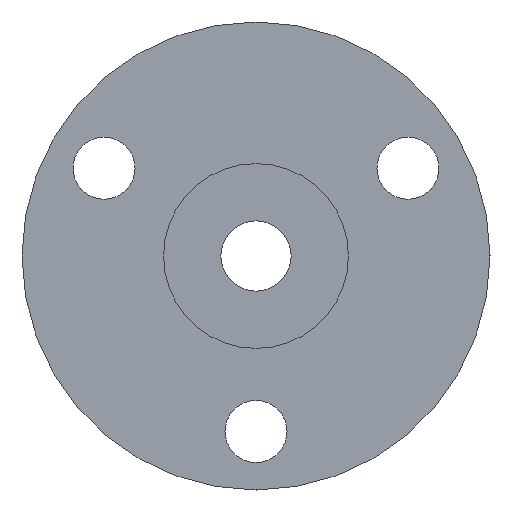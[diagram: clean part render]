
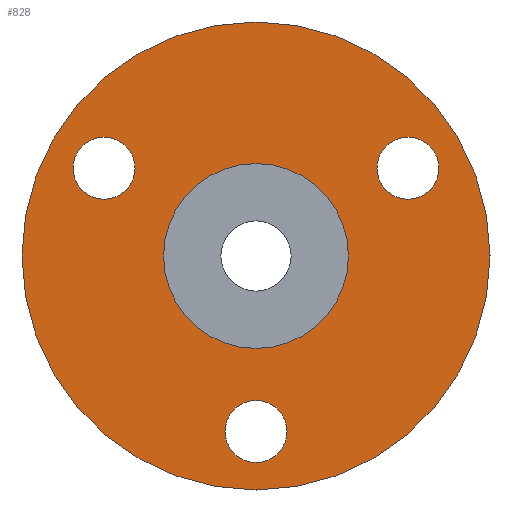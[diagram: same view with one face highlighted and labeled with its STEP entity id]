
A CAD part, front view. The second image highlights one B-rep face of the part: STEP entity #828.
In plain terms, the highlighted planar face has unit normal (0, -1, 0).
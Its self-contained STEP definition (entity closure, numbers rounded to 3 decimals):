
#11 = CIRCLE ( 'NONE', #228, 2.65 ) ;
#32 = ORIENTED_EDGE ( 'NONE', *, *, #761, .F. ) ;
#47 = VERTEX_POINT ( 'NONE', #421 ) ;
#53 = CIRCLE ( 'NONE', #287, 7.9 ) ;
#70 = DIRECTION ( 'NONE',  ( 0., -1., 0. ) ) ;
#72 = CARTESIAN_POINT ( 'NONE',  ( 0., -17.6, -20. ) ) ;
#76 = CARTESIAN_POINT ( 'NONE',  ( 0., -17.6, 20. ) ) ;
#80 = EDGE_LOOP ( 'NONE', ( #694, #931 ) ) ;
#94 = EDGE_CURVE ( 'NONE', #186, #534, #462, .T. ) ;
#96 = DIRECTION ( 'NONE',  ( 0., -1., 0. ) ) ;
#97 = ORIENTED_EDGE ( 'NONE', *, *, #614, .F. ) ;
#111 = CARTESIAN_POINT ( 'NONE',  ( 12.99, -17.6, 7.5 ) ) ;
#133 = CARTESIAN_POINT ( 'NONE',  ( 0., -17.6, 20. ) ) ;
#136 = ORIENTED_EDGE ( 'NONE', *, *, #181, .T. ) ;
#137 = ORIENTED_EDGE ( 'NONE', *, *, #311, .F. ) ;
#139 = CARTESIAN_POINT ( 'NONE',  ( -12.99, -17.6, 4.85 ) ) ;
#154 = EDGE_CURVE ( 'NONE', #691, #713, #53, .T. ) ;
#160 = FACE_BOUND ( 'NONE', #208, .T. ) ;
#166 = DIRECTION ( 'NONE',  ( 0., 0., 1. ) ) ;
#181 = EDGE_CURVE ( 'NONE', #713, #691, #720, .T. ) ;
#184 = DIRECTION ( 'NONE',  ( 0., 0., 1. ) ) ;
#186 = VERTEX_POINT ( 'NONE', #883 ) ;
#208 = EDGE_LOOP ( 'NONE', ( #1066, #32 ) ) ;
#228 = AXIS2_PLACEMENT_3D ( 'NONE', #317, #815, #746 ) ;
#242 = CARTESIAN_POINT ( 'NONE',  ( 0., -17.6, -15. ) ) ;
#244 = DIRECTION ( 'NONE',  ( 0., 0., -1. ) ) ;
#253 = CARTESIAN_POINT ( 'NONE',  ( 0., -17.6, 0. ) ) ;
#264 = CARTESIAN_POINT ( 'NONE',  ( 0., -17.6, 0. ) ) ;
#265 = ORIENTED_EDGE ( 'NONE', *, *, #583, .F. ) ;
#275 = EDGE_CURVE ( 'NONE', #787, #969, #959, .T. ) ;
#280 = DIRECTION ( 'NONE',  ( 0., 0., -1. ) ) ;
#287 = AXIS2_PLACEMENT_3D ( 'NONE', #264, #1030, #888 ) ;
#311 = EDGE_CURVE ( 'NONE', #687, #370, #11, .T. ) ;
#317 = CARTESIAN_POINT ( 'NONE',  ( -12.99, -17.6, 7.5 ) ) ;
#344 = CIRCLE ( 'NONE', #407, 2.65 ) ;
#370 = VERTEX_POINT ( 'NONE', #139 ) ;
#379 = DIRECTION ( 'NONE',  ( 0., 1., 0. ) ) ;
#380 = AXIS2_PLACEMENT_3D ( 'NONE', #871, #379, #184 ) ;
#381 = CIRCLE ( 'NONE', #523, 2.65 ) ;
#392 = AXIS2_PLACEMENT_3D ( 'NONE', #253, #751, #166 ) ;
#404 = DIRECTION ( 'NONE',  ( 0., 0., -1. ) ) ;
#407 = AXIS2_PLACEMENT_3D ( 'NONE', #660, #70, #404 ) ;
#411 = FACE_BOUND ( 'NONE', #444, .T. ) ;
#421 = CARTESIAN_POINT ( 'NONE',  ( 12.99, -17.6, 10.15 ) ) ;
#430 = EDGE_CURVE ( 'NONE', #969, #787, #729, .T. ) ;
#437 = VERTEX_POINT ( 'NONE', #757 ) ;
#439 = DIRECTION ( 'NONE',  ( 0., -1., 0. ) ) ;
#444 = EDGE_LOOP ( 'NONE', ( #265, #754 ) ) ;
#446 = CARTESIAN_POINT ( 'NONE',  ( -12.99, -17.6, 7.5 ) ) ;
#456 = DIRECTION ( 'NONE',  ( 0., -1., 0. ) ) ;
#462 = CIRCLE ( 'NONE', #1080, 2.65 ) ;
#465 = DIRECTION ( 'NONE',  ( 0., 0., 1. ) ) ;
#483 = AXIS2_PLACEMENT_3D ( 'NONE', #545, #893, #465 ) ;
#494 = DIRECTION ( 'NONE',  ( 0., -1., 0. ) ) ;
#523 = AXIS2_PLACEMENT_3D ( 'NONE', #544, #439, #1034 ) ;
#524 = DIRECTION ( 'NONE',  ( 0., -1., 0. ) ) ;
#534 = VERTEX_POINT ( 'NONE', #938 ) ;
#535 = CARTESIAN_POINT ( 'NONE',  ( -12.99, -17.6, 10.15 ) ) ;
#544 = CARTESIAN_POINT ( 'NONE',  ( 12.99, -17.6, 7.5 ) ) ;
#545 = CARTESIAN_POINT ( 'NONE',  ( 0., -17.6, 0. ) ) ;
#583 = EDGE_CURVE ( 'NONE', #47, #437, #814, .T. ) ;
#590 = FACE_BOUND ( 'NONE', #976, .T. ) ;
#596 = DIRECTION ( 'NONE',  ( 0., 0., -1. ) ) ;
#612 = AXIS2_PLACEMENT_3D ( 'NONE', #111, #524, #622 ) ;
#614 = EDGE_CURVE ( 'NONE', #370, #687, #1003, .T. ) ;
#622 = DIRECTION ( 'NONE',  ( 0., 0., -1. ) ) ;
#655 = EDGE_CURVE ( 'NONE', #437, #47, #381, .T. ) ;
#660 = CARTESIAN_POINT ( 'NONE',  ( 0., -17.6, -15. ) ) ;
#671 = FACE_BOUND ( 'NONE', #717, .T. ) ;
#687 = VERTEX_POINT ( 'NONE', #535 ) ;
#691 = VERTEX_POINT ( 'NONE', #881 ) ;
#694 = ORIENTED_EDGE ( 'NONE', *, *, #275, .F. ) ;
#713 = VERTEX_POINT ( 'NONE', #740 ) ;
#717 = EDGE_LOOP ( 'NONE', ( #137, #97 ) ) ;
#720 = CIRCLE ( 'NONE', #380, 7.9 ) ;
#726 = AXIS2_PLACEMENT_3D ( 'NONE', #76, #494, #244 ) ;
#729 = CIRCLE ( 'NONE', #392, 20. ) ;
#740 = CARTESIAN_POINT ( 'NONE',  ( 0., -17.6, 7.9 ) ) ;
#746 = DIRECTION ( 'NONE',  ( 0., 0., -1. ) ) ;
#750 = PLANE ( 'NONE',  #726 ) ;
#751 = DIRECTION ( 'NONE',  ( 0., 1., 0. ) ) ;
#754 = ORIENTED_EDGE ( 'NONE', *, *, #655, .F. ) ;
#757 = CARTESIAN_POINT ( 'NONE',  ( 12.99, -17.6, 4.85 ) ) ;
#759 = AXIS2_PLACEMENT_3D ( 'NONE', #446, #456, #280 ) ;
#761 = EDGE_CURVE ( 'NONE', #534, #186, #344, .T. ) ;
#787 = VERTEX_POINT ( 'NONE', #133 ) ;
#814 = CIRCLE ( 'NONE', #612, 2.65 ) ;
#815 = DIRECTION ( 'NONE',  ( 0., -1., 0. ) ) ;
#828 = ADVANCED_FACE ( 'NONE', ( #671, #411, #160, #590, #838 ), #750, .T. ) ;
#838 = FACE_OUTER_BOUND ( 'NONE', #80, .T. ) ;
#871 = CARTESIAN_POINT ( 'NONE',  ( 0., -17.6, 0. ) ) ;
#881 = CARTESIAN_POINT ( 'NONE',  ( 0., -17.6, -7.9 ) ) ;
#883 = CARTESIAN_POINT ( 'NONE',  ( 0., -17.6, -12.35 ) ) ;
#888 = DIRECTION ( 'NONE',  ( 0., 0., 1. ) ) ;
#893 = DIRECTION ( 'NONE',  ( 0., 1., 0. ) ) ;
#931 = ORIENTED_EDGE ( 'NONE', *, *, #430, .F. ) ;
#938 = CARTESIAN_POINT ( 'NONE',  ( 0., -17.6, -17.65 ) ) ;
#959 = CIRCLE ( 'NONE', #483, 20. ) ;
#964 = ORIENTED_EDGE ( 'NONE', *, *, #154, .T. ) ;
#969 = VERTEX_POINT ( 'NONE', #72 ) ;
#976 = EDGE_LOOP ( 'NONE', ( #136, #964 ) ) ;
#1003 = CIRCLE ( 'NONE', #759, 2.65 ) ;
#1030 = DIRECTION ( 'NONE',  ( 0., 1., 0. ) ) ;
#1034 = DIRECTION ( 'NONE',  ( 0., 0., -1. ) ) ;
#1066 = ORIENTED_EDGE ( 'NONE', *, *, #94, .F. ) ;
#1080 = AXIS2_PLACEMENT_3D ( 'NONE', #242, #96, #596 ) ;
